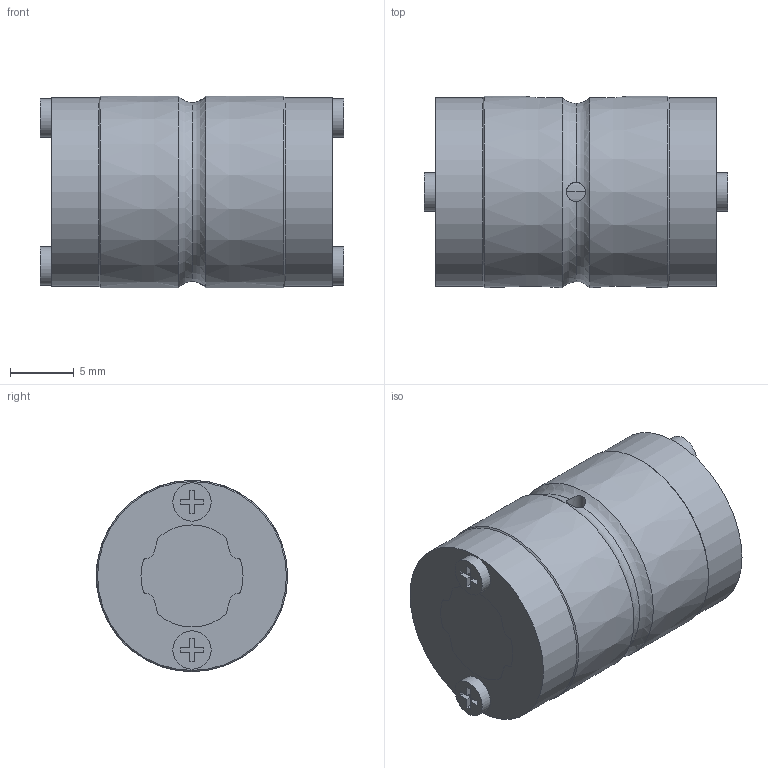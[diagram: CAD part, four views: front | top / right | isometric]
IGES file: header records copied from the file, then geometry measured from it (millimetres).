
Start section: Data from Parasolid IGES Translator 26.0.171, Copyright(c) 2006 Siemens PLM Software. All Rights Reserved.
Global section: file name: LT8X+22L(00).igs; native system: By Siemens PLM Incorporated; preprocessor: XPlus GENERIC/IGES 26.0.171; author: Noname; organization: Noname; date: 20240528.070717; units: millimetre
Bounding box: 23.8 x 15 x 15 mm (x, y, z)
Surface area: 2607.4 mm2 (no closed solid volume)
Topology: 0 solids, 0 shells, 123 faces, 680 edges, 668 vertices
Faces by surface type: extrusion 71, revolution 52
